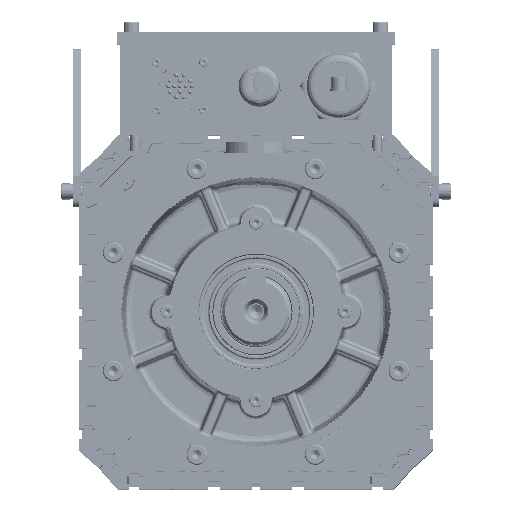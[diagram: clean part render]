
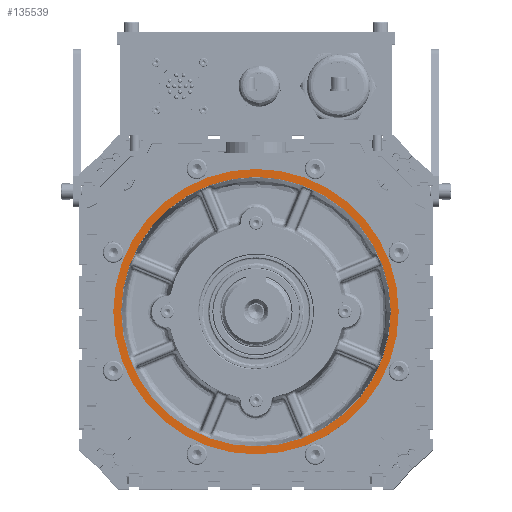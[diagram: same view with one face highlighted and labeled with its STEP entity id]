
A CAD part, top view. The second image highlights one B-rep face of the part: STEP entity #135539.
In plain terms, the highlighted planar face has unit normal (0, 0, 1) as drawn and (0, 0, -1) by its records, which use the part's own axes.
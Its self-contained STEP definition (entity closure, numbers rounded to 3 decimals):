
#6342 = DIRECTION ( 'NONE',  ( 1., 0., 0. ) ) ;
#10558 = ORIENTED_EDGE ( 'NONE', *, *, #130630, .F. ) ;
#13087 = VERTEX_POINT ( 'NONE', #98423 ) ;
#18684 = CARTESIAN_POINT ( 'NONE',  ( -118.364, -25.305, 205. ) ) ;
#23546 = CARTESIAN_POINT ( 'NONE',  ( -28.364, -25.305, 205. ) ) ;
#26821 = EDGE_CURVE ( 'NONE', #85628, #99840, #80599, .T. ) ;
#36801 = EDGE_LOOP ( 'NONE', ( #145781, #10558 ) ) ;
#39053 = DIRECTION ( 'NONE',  ( 0., 0., 1. ) ) ;
#52348 = CARTESIAN_POINT ( 'NONE',  ( -28.364, -25.305, 205. ) ) ;
#64047 = AXIS2_PLACEMENT_3D ( 'NONE', #23546, #167945, #154561 ) ;
#65468 = AXIS2_PLACEMENT_3D ( 'NONE', #52348, #154179, #66918 ) ;
#66918 = DIRECTION ( 'NONE',  ( -1., 0., 0. ) ) ;
#69866 = CIRCLE ( 'NONE', #64047, 90. ) ;
#80138 = CARTESIAN_POINT ( 'NONE',  ( -113.364, -25.305, 205. ) ) ;
#80599 = CIRCLE ( 'NONE', #65468, 85. ) ;
#85628 = VERTEX_POINT ( 'NONE', #80138 ) ;
#97499 = EDGE_LOOP ( 'NONE', ( #126901, #143929 ) ) ;
#97878 = EDGE_CURVE ( 'NONE', #99840, #85628, #164718, .T. ) ;
#98423 = CARTESIAN_POINT ( 'NONE',  ( 61.636, -25.305, 205. ) ) ;
#99840 = VERTEX_POINT ( 'NONE', #100488 ) ;
#100488 = CARTESIAN_POINT ( 'NONE',  ( 56.636, -25.305, 205. ) ) ;
#105126 = CARTESIAN_POINT ( 'NONE',  ( -28.364, -25.305, 205. ) ) ;
#107481 = DIRECTION ( 'NONE',  ( 0., 0., 1. ) ) ;
#113911 = AXIS2_PLACEMENT_3D ( 'NONE', #105126, #136299, #151569 ) ;
#126901 = ORIENTED_EDGE ( 'NONE', *, *, #26821, .F. ) ;
#130630 = EDGE_CURVE ( 'NONE', #13087, #148323, #69866, .T. ) ;
#135539 = ADVANCED_FACE ( 'NONE', ( #146595, #182959 ), #165398, .F. ) ;
#136299 = DIRECTION ( 'NONE',  ( 0., 0., -1. ) ) ;
#143929 = ORIENTED_EDGE ( 'NONE', *, *, #97878, .F. ) ;
#145781 = ORIENTED_EDGE ( 'NONE', *, *, #174289, .F. ) ;
#146557 = AXIS2_PLACEMENT_3D ( 'NONE', #152012, #107481, #6342 ) ;
#146595 = FACE_OUTER_BOUND ( 'NONE', #36801, .T. ) ;
#146918 = CIRCLE ( 'NONE', #157239, 90. ) ;
#148323 = VERTEX_POINT ( 'NONE', #18684 ) ;
#151569 = DIRECTION ( 'NONE',  ( -1., 0., 0. ) ) ;
#152012 = CARTESIAN_POINT ( 'NONE',  ( -28.364, -115.305, 205. ) ) ;
#153599 = DIRECTION ( 'NONE',  ( -1., 0., 0. ) ) ;
#154179 = DIRECTION ( 'NONE',  ( 0., 0., -1. ) ) ;
#154561 = DIRECTION ( 'NONE',  ( -1., 0., 0. ) ) ;
#157239 = AXIS2_PLACEMENT_3D ( 'NONE', #168254, #39053, #153599 ) ;
#164718 = CIRCLE ( 'NONE', #113911, 85. ) ;
#165398 = PLANE ( 'NONE',  #146557 ) ;
#167945 = DIRECTION ( 'NONE',  ( 0., 0., 1. ) ) ;
#168254 = CARTESIAN_POINT ( 'NONE',  ( -28.364, -25.305, 205. ) ) ;
#174289 = EDGE_CURVE ( 'NONE', #148323, #13087, #146918, .T. ) ;
#182959 = FACE_BOUND ( 'NONE', #97499, .T. ) ;
